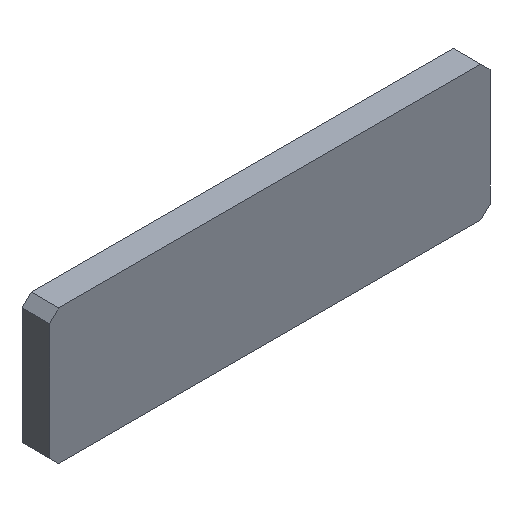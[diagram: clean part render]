
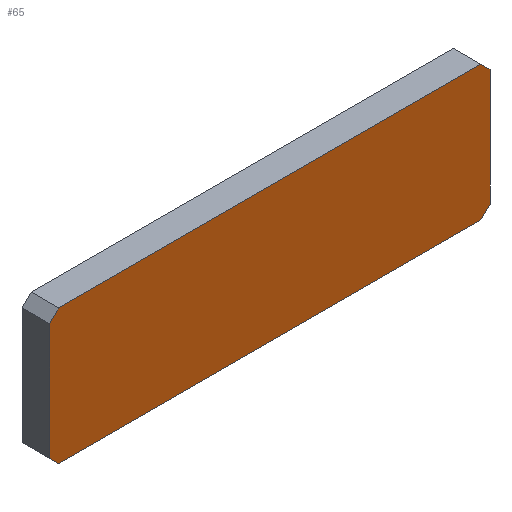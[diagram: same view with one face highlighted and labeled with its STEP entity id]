
A CAD part, isometric view. The second image highlights one B-rep face of the part: STEP entity #65.
In plain terms, the highlighted planar face has unit normal (0, -1, 0).
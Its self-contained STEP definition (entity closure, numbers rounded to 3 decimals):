
#6 = CARTESIAN_POINT ( 'NONE',  ( 6.85, 240., -11.15 ) ) ;
#8 = ORIENTED_EDGE ( 'NONE', *, *, #27, .T. ) ;
#10 = VERTEX_POINT ( 'NONE', #18 ) ;
#12 = ORIENTED_EDGE ( 'NONE', *, *, #221, .T. ) ;
#18 = CARTESIAN_POINT ( 'NONE',  ( 24., 240., 18.7 ) ) ;
#27 = EDGE_CURVE ( 'NONE', #177, #254, #213, .T. ) ;
#37 = ORIENTED_EDGE ( 'NONE', *, *, #167, .F. ) ;
#40 = PLANE ( 'NONE',  #101 ) ;
#41 = VECTOR ( 'NONE', #103, 1000. ) ;
#43 = DIRECTION ( 'NONE',  ( 0., -1., 0. ) ) ;
#47 = VECTOR ( 'NONE', #190, 1000. ) ;
#52 = CARTESIAN_POINT ( 'NONE',  ( -23., 240., 5. ) ) ;
#56 = VERTEX_POINT ( 'NONE', #66 ) ;
#57 = ORIENTED_EDGE ( 'NONE', *, *, #151, .T. ) ;
#60 = VECTOR ( 'NONE', #160, 1000. ) ;
#63 = ORIENTED_EDGE ( 'NONE', *, *, #93, .T. ) ;
#65 = ADVANCED_FACE ( 'NONE', ( #113 ), #40, .T. ) ;
#66 = CARTESIAN_POINT ( 'NONE',  ( 23., 240., 19.7 ) ) ;
#70 = CARTESIAN_POINT ( 'NONE',  ( -24., 240., 19.7 ) ) ;
#72 = CARTESIAN_POINT ( 'NONE',  ( -24., 240., 6. ) ) ;
#74 = CARTESIAN_POINT ( 'NONE',  ( 24., 240., 19.7 ) ) ;
#88 = VERTEX_POINT ( 'NONE', #314 ) ;
#90 = EDGE_LOOP ( 'NONE', ( #37, #250, #63, #288, #8, #12, #249, #57 ) ) ;
#92 = CARTESIAN_POINT ( 'NONE',  ( 24., 240., 6. ) ) ;
#93 = EDGE_CURVE ( 'NONE', #154, #114, #158, .T. ) ;
#101 = AXIS2_PLACEMENT_3D ( 'NONE', #316, #43, #212 ) ;
#103 = DIRECTION ( 'NONE',  ( 0.707, 0., 0.707 ) ) ;
#113 = FACE_OUTER_BOUND ( 'NONE', #90, .T. ) ;
#114 = VERTEX_POINT ( 'NONE', #72 ) ;
#121 = LINE ( 'NONE', #74, #47 ) ;
#127 = VERTEX_POINT ( 'NONE', #92 ) ;
#141 = VECTOR ( 'NONE', #191, 1000. ) ;
#145 = CARTESIAN_POINT ( 'NONE',  ( -24., 240., 19.7 ) ) ;
#151 = EDGE_CURVE ( 'NONE', #10, #56, #244, .T. ) ;
#152 = DIRECTION ( 'NONE',  ( 0.707, 0., -0.707 ) ) ;
#154 = VERTEX_POINT ( 'NONE', #297 ) ;
#158 = LINE ( 'NONE', #70, #60 ) ;
#160 = DIRECTION ( 'NONE',  ( 0., 0., -1. ) ) ;
#163 = DIRECTION ( 'NONE',  ( 1., 0., 0. ) ) ;
#166 = DIRECTION ( 'NONE',  ( -0.707, 0., 0.707 ) ) ;
#167 = EDGE_CURVE ( 'NONE', #88, #56, #262, .T. ) ;
#175 = VECTOR ( 'NONE', #166, 1000. ) ;
#177 = VERTEX_POINT ( 'NONE', #52 ) ;
#188 = VECTOR ( 'NONE', #163, 1000. ) ;
#190 = DIRECTION ( 'NONE',  ( 0., 0., -1. ) ) ;
#191 = DIRECTION ( 'NONE',  ( 1., 0., 0. ) ) ;
#197 = LINE ( 'NONE', #228, #256 ) ;
#212 = DIRECTION ( 'NONE',  ( 0., 0., -1. ) ) ;
#213 = LINE ( 'NONE', #233, #188 ) ;
#214 = CARTESIAN_POINT ( 'NONE',  ( -0.5, 240., 43.2 ) ) ;
#217 = LINE ( 'NONE', #6, #41 ) ;
#221 = EDGE_CURVE ( 'NONE', #254, #127, #217, .T. ) ;
#224 = CARTESIAN_POINT ( 'NONE',  ( 23., 240., 5. ) ) ;
#228 = CARTESIAN_POINT ( 'NONE',  ( -23.5, 240., 19.2 ) ) ;
#233 = CARTESIAN_POINT ( 'NONE',  ( -24., 240., 5. ) ) ;
#241 = EDGE_CURVE ( 'NONE', #10, #127, #121, .T. ) ;
#244 = LINE ( 'NONE', #214, #175 ) ;
#249 = ORIENTED_EDGE ( 'NONE', *, *, #241, .F. ) ;
#250 = ORIENTED_EDGE ( 'NONE', *, *, #275, .T. ) ;
#254 = VERTEX_POINT ( 'NONE', #224 ) ;
#256 = VECTOR ( 'NONE', #280, 1000. ) ;
#262 = LINE ( 'NONE', #145, #141 ) ;
#275 = EDGE_CURVE ( 'NONE', #88, #154, #197, .T. ) ;
#280 = DIRECTION ( 'NONE',  ( -0.707, 0., -0.707 ) ) ;
#288 = ORIENTED_EDGE ( 'NONE', *, *, #290, .T. ) ;
#290 = EDGE_CURVE ( 'NONE', #114, #177, #310, .T. ) ;
#297 = CARTESIAN_POINT ( 'NONE',  ( -24., 240., 18.7 ) ) ;
#302 = VECTOR ( 'NONE', #152, 1000. ) ;
#305 = CARTESIAN_POINT ( 'NONE',  ( -30.85, 240., 12.85 ) ) ;
#310 = LINE ( 'NONE', #305, #302 ) ;
#314 = CARTESIAN_POINT ( 'NONE',  ( -23., 240., 19.7 ) ) ;
#316 = CARTESIAN_POINT ( 'NONE',  ( -24., 240., 19.7 ) ) ;
